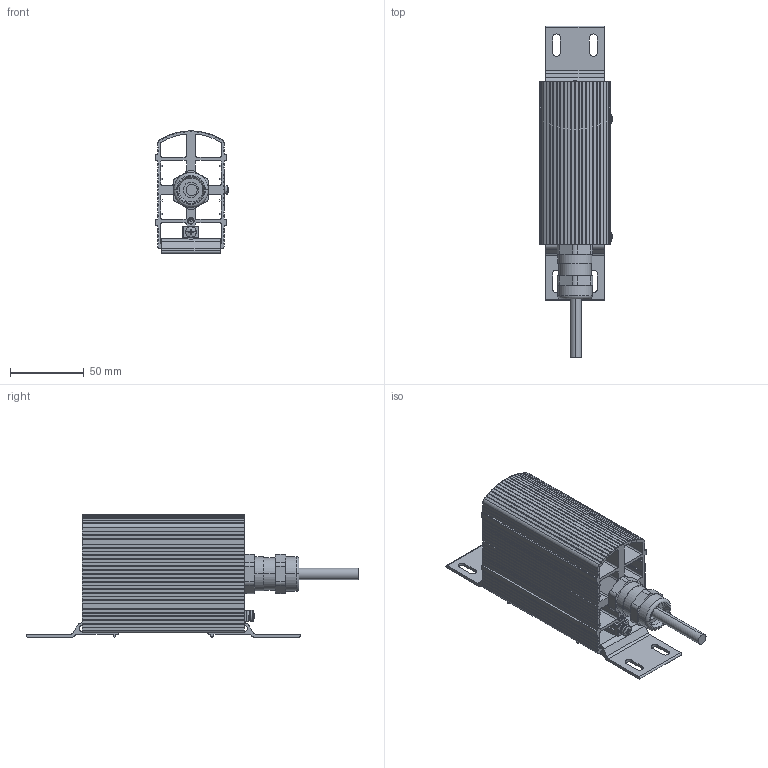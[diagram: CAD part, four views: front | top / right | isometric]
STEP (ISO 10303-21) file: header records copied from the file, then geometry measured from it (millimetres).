
FILE_DESCRIPTION (( 'STEP AP214' ), '1' );
FILE_NAME ('02031.0-10_Ex-Heizgeraet.STEP', '2017-08-08T12:04:46', ( '' ), ( '' ), 'SwSTEP 2.0', 'SolidWorks 2017', '' );
FILE_SCHEMA (( 'AUTOMOTIVE_DESIGN' ));
Length unit declared in the file: millimetre
Products named in the file (1): 02031.0-10_Ex-Heizgeraet
Bounding box: 49.42 x 225 x 82.8 mm (x, y, z)
Surface area: 112869.3 mm2 (no closed solid volume)
Topology: 0 solids, 12 shells, 608 faces, 2122 edges, 1451 vertices
Faces by surface type: plane 422, cylinder 135, cone 38, torus 6, sphere 6, bspline 1
Entity records: 29738 total; most frequent: CARTESIAN_POINT 4895, ORIENTED_EDGE 3725, DIRECTION 3596, EDGE_CURVE 2122, VECTOR 1622, LINE 1622, VERTEX_POINT 1451, AXIS2_PLACEMENT_3D 987
